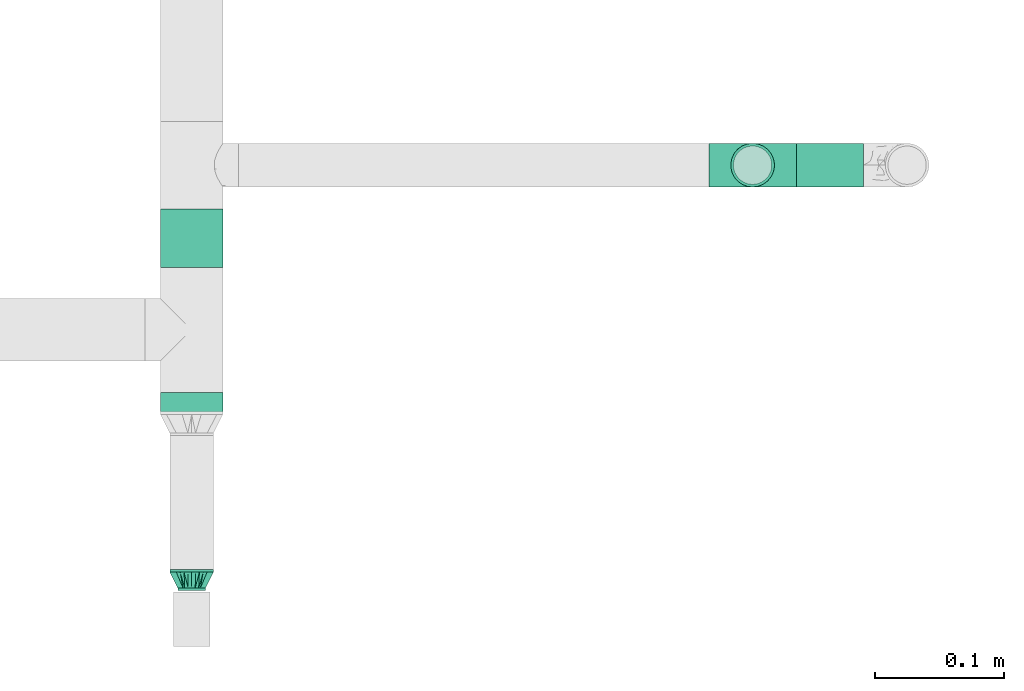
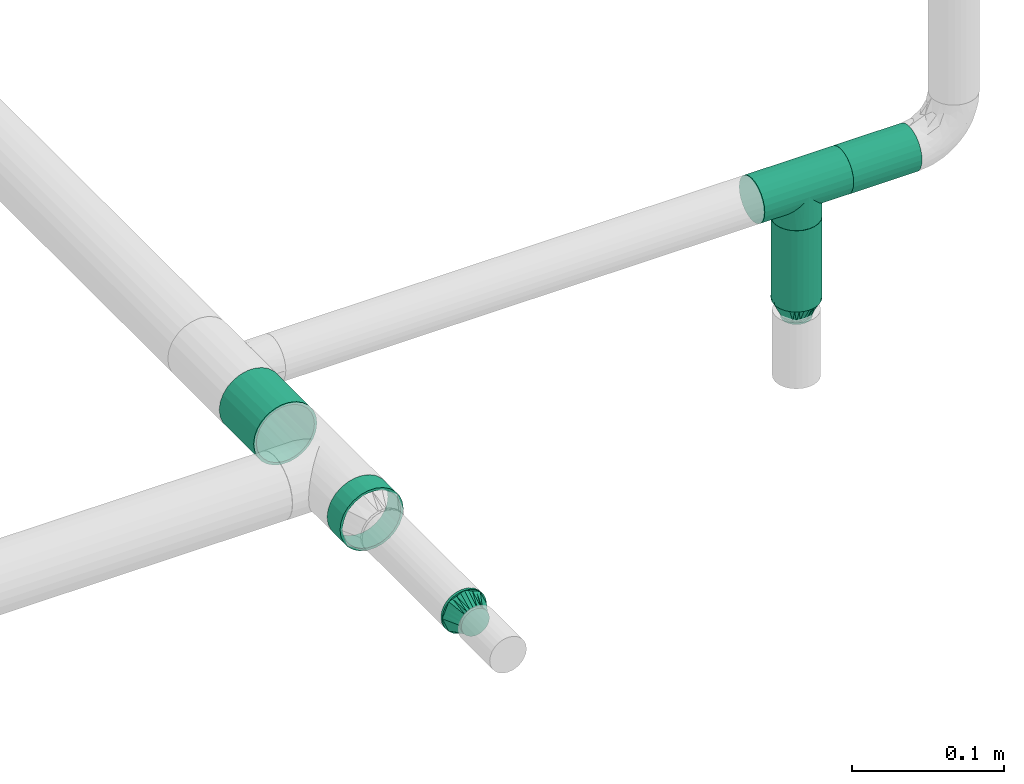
# One storey, part 37 of 51: 4 flow segments, 3 flow fittings.
"""IFC2X3 building model written with IfcOpenShell, lengths in millimetres."""

from ifc_helpers import new_model, entity, si_unit, converted_unit, derived_unit, direction, frame, origin_with_axes, origin_2d_with_axis, place, context, subcontext, project, spatial, hollow_circle, extrude, open_shell, surface_model, source, transform, mapped, type_object, element, save


model = new_model("IFC2X3")

# Units and contexts
model_context = context("Model", 3, precision=0.01, world=frame((0.0, 4.29681676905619e-09, 0.0)), true_north=direction((4.01073788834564e-13, 1.0)))
plan_context = context("Plan", 3, precision=0.01, world=frame((0.0, 4.29681676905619e-09, 0.0)), true_north=direction((4.01073788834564e-13, 1.0)))
body_context = subcontext(model_context, "Body", "Model", "MODEL_VIEW")
ifc_project = project(units=[converted_unit("PLANEANGLEUNIT", "DEGREE", entity("IfcPositiveLengthMeasure", 0.0174532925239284), si_unit("PLANEANGLEUNIT", "RADIAN"), dimensions=[0, 0, 0, 0, 0, 0, 0]), si_unit("AREAUNIT", "SQUARE_METRE"), si_unit("LENGTHUNIT", "METRE", prefix="MILLI"), si_unit("MASSUNIT", "GRAM", prefix="KILO"), si_unit("POWERUNIT", "WATT"), si_unit("PRESSUREUNIT", "PASCAL"), si_unit("FORCEUNIT", "NEWTON", prefix="KILO"), si_unit("ELECTRICVOLTAGEUNIT", "VOLT"), si_unit("ELECTRICCURRENTUNIT", "AMPERE"), si_unit("THERMODYNAMICTEMPERATUREUNIT", "DEGREE_CELSIUS"), si_unit("TIMEUNIT", "SECOND"), si_unit("VOLUMEUNIT", "CUBIC_METRE"), derived_unit("LINEARVELOCITYUNIT", [(si_unit("LENGTHUNIT", "METRE"), 1), (si_unit("TIMEUNIT", "SECOND"), -1)]), derived_unit("VOLUMETRICFLOWRATEUNIT", [(si_unit("VOLUMEUNIT", "CUBIC_METRE"), 1), (si_unit("TIMEUNIT", "SECOND"), -1)]), derived_unit("THERMALTRANSMITTANCEUNIT", [(si_unit("POWERUNIT", "WATT"), 1), (si_unit("THERMODYNAMICTEMPERATUREUNIT", "KELVIN"), -1), (si_unit("AREAUNIT", "SQUARE_METRE"), -1)]), derived_unit("SOUNDPRESSUREUNIT", [(si_unit("PRESSUREUNIT", "PASCAL"), 1)])], contexts=[model_context, plan_context])

# Site, building, storey
site_placement = place(None, frame((0.0, -4.29681676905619e-09, 0.0), z_axis=(0.0, 0.0, 1.0), x_axis=(1.0, 0.0, 0.0)))
site = spatial("IfcSite", under=ifc_project, at=site_placement, Name="ENGM", CompositionType="ELEMENT")
building_placement = place(site_placement, frame((0.0, 4.29681676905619e-09, 0.0), z_axis=(0.0, 0.0, 1.0), x_axis=(1.0, 0.0, 0.0)))
building = spatial("IfcBuilding", under=site, at=building_placement, Name="TH", CompositionType="ELEMENT")
storey_placement = place(building_placement, frame((0.0, 0.0, 210200.0), z_axis=(0.0, 0.0, 1.0), x_axis=(1.0, 0.0, 0.0)))
storey = spatial("IfcBuildingStorey", under=building, at=storey_placement, Name="Nivå F - 0,7 m", CompositionType="ELEMENT", Elevation=210200.0)

# Flow fittings
pipe_fitting_type_1 = type_object("IfcPipeFittingType", Name="magi_pipe_fe_reducer_centric_short_NOR", PredefinedType="TRANSITION")
shared_shape_1 = source(origin_with_axes(), body_context, "Body", "SurfaceModel", [
    surface_model("IfcShellBasedSurfaceModel", [(14.4, 4.37404, -16.32415), (14.4, 8.45, -14.63583), (14.4, 11.9501, -11.9501), (14.4, -8.45, -14.63583), (14.4, 16.32415, -4.37404), (14.4, 16.32415, 4.37404), (14.4, 14.63583, -8.45), (14.4, 0.0, -16.9), (14.4, -4.37404, -16.32415), (14.4, -11.9501, -11.9501), (14.4, -16.32415, -4.37404), (14.4, -14.63583, -8.45), (14.4, -16.32415, 4.37404), (14.4, 16.9, 0.0), (14.4, 14.63583, 8.45), (14.4, 11.9501, 11.9501), (14.4, 4.37404, 16.32415), (14.4, 8.45, 14.63583), (14.4, 0.0, 16.9), (14.4, -14.63583, 8.45), (14.4, -16.9, 0.0), (14.4, -8.45, 14.63583), (14.4, -11.9501, 11.9501), (14.4, -4.37404, 16.32415), (12.4, 4.37404, 16.32415), (12.4, -14.63583, 8.45), (12.4, 0.0, 16.9), (12.4, 16.32415, 4.37404), (12.4, 8.45, 14.63583), (12.4, 11.9501, 11.9501), (12.4, 14.63583, 8.45), (12.4, -8.45, 14.63583), (12.4, -11.9501, 11.9501), (12.4, -4.37404, 16.32415), (12.4, -16.32415, 4.37404), (12.4, -16.32415, -4.37404), (12.4, -16.9, 0.0), (12.4, -8.45, -14.63583), (12.4, 16.32415, -4.37404), (12.4, 11.9501, -11.9501), (12.4, 14.63583, -8.45), (12.4, 8.45, -14.63583), (12.4, 4.37404, -16.32415), (12.4, 0.0, -16.9), (12.4, -11.9501, -11.9501), (12.4, -14.63583, -8.45), (12.4, -4.37404, -16.32415), (12.4, 16.9, 0.0), (-2.0, 10.33541, 2.76936), (-2.0, 0.0, 10.7), (-2.0, 2.76936, 10.33541), (-2.0, 7.56604, 7.56604), (-2.0, 5.35, 9.26647), (-2.0, 9.26647, 5.35), (-2.0, -9.26647, 5.35), (-2.0, -2.76936, 10.33541), (-2.0, -7.56604, 7.56604), (-2.0, -5.35, 9.26647), (-2.0, -10.33541, 2.76936), (-2.0, -10.33541, -2.76936), (-2.0, -10.7, 0.0), (-2.0, 10.33541, -2.76936), (-2.0, 7.56604, -7.56604), (-2.0, 9.26647, -5.35), (-2.0, 5.35, -9.26647), (-2.0, -5.35, -9.26647), (-2.0, 2.76936, -10.33541), (-2.0, -7.56604, -7.56604), (-2.0, -9.26647, -5.35), (-2.0, 0.0, -10.7), (-2.0, -2.76936, -10.33541), (-2.0, 10.7, 0.0), (0.0, 5.35, -9.26647), (0.0, 0.0, -10.7), (0.0, 2.76936, -10.33541), (0.0, 10.33541, -2.76936), (0.0, 7.56604, -7.56604), (0.0, -5.35, -9.26647), (0.0, 9.26647, -5.35), (0.0, -9.26647, 5.35), (0.0, -2.76936, -10.33541), (0.0, -7.56604, -7.56604), (0.0, -10.33541, -2.76936), (0.0, -9.26647, -5.35), (0.0, 10.33541, 2.76936), (0.0, 10.7, 0.0), (0.0, 9.26647, 5.35), (0.0, 7.56604, 7.56604), (0.0, 2.76936, 10.33541), (0.0, 0.0, 10.7), (0.0, 5.35, 9.26647), (0.0, -10.33541, 2.76936), (0.0, -10.7, 0.0), (0.0, -7.56604, 7.56604), (0.0, -2.76936, 10.33541), (0.0, -5.35, 9.26647), (0.0, -9.3625, -2.31662), (12.4, -14.42505, -5.97505), (12.4, -15.66253, -2.98753), (0.0, 6.6875, -6.94985), (12.4, 8.96258, -13.18758), (0.0, -6.6875, -6.94985), (12.4, -8.96258, -13.18758), (0.0, 9.3625, -2.31662), (12.4, 15.66253, -2.98753), (12.4, 14.42505, -5.97505), (12.4, -5.97505, -14.42505), (12.4, 5.97505, -14.42505), (0.0, 2.675, -9.26647), (12.4, 13.18758, -8.96258), (0.0, -2.675, -9.26647), (12.4, -13.18758, -8.96258), (0.0, -8.025, -4.63324), (12.4, 2.98753, -15.66253), (0.0, 0.0, -9.26647), (12.4, -2.98753, -15.66253), (0.0, 8.025, -4.63324), (0.0, 9.3625, 2.31662), (12.4, 14.42505, 5.97505), (12.4, 15.66253, 2.98753), (0.0, -6.6875, 6.94985), (12.4, -8.96258, 13.18758), (0.0, 6.6875, 6.94985), (12.4, 8.96258, 13.18758), (0.0, -9.3625, 2.31662), (12.4, -15.66253, 2.98753), (12.4, -14.42505, 5.97505), (12.4, 5.97505, 14.42505), (12.4, -5.97505, 14.42505), (0.0, -2.675, 9.26647), (12.4, -13.18758, 8.96258), (0.0, 2.675, 9.26647), (12.4, 13.18758, 8.96258), (0.0, 8.025, 4.63324), (12.4, -2.98753, 15.66253), (0.0, 0.0, 9.26647), (12.4, 2.98753, 15.66253), (0.0, -8.025, 4.63324)], [open_shell([[[0, 1, 2]], [[3, 0, 2]], [[2, 4, 5]], [[4, 2, 6]], [[2, 5, 3]], [[7, 3, 8]], [[7, 0, 3]], [[9, 10, 11]], [[10, 9, 3]], [[3, 12, 10]], [[5, 4, 13]], [[5, 14, 15]], [[5, 15, 16]], [[16, 12, 3]], [[16, 15, 17]], [[12, 16, 18]], [[18, 19, 12]], [[20, 10, 12]], [[19, 21, 22]], [[19, 18, 21]], [[21, 18, 23]], [[3, 5, 16]], [[24, 25, 26]], [[27, 24, 28]], [[29, 30, 27]], [[29, 27, 28]], [[25, 24, 27]], [[31, 25, 32]], [[31, 33, 26]], [[26, 25, 31]], [[34, 25, 27]], [[34, 35, 36]], [[34, 27, 37]], [[27, 38, 39]], [[39, 38, 40]], [[39, 41, 42]], [[37, 27, 39]], [[42, 43, 39]], [[35, 44, 45]], [[44, 35, 37]], [[37, 43, 46]], [[35, 34, 37]], [[39, 43, 37]], [[38, 27, 47]], [[35, 10, 36]], [[45, 11, 35]], [[3, 44, 37]], [[45, 44, 9]], [[8, 37, 46]], [[35, 11, 10]], [[10, 20, 36]], [[8, 3, 37]], [[9, 44, 3]], [[9, 11, 45]], [[7, 8, 46]], [[46, 43, 7]], [[42, 0, 43]], [[41, 1, 42]], [[6, 39, 40]], [[41, 39, 2]], [[4, 40, 38]], [[41, 2, 1]], [[1, 0, 42]], [[13, 4, 38]], [[6, 40, 4]], [[6, 2, 39]], [[47, 13, 38]], [[43, 0, 7]], [[27, 5, 47]], [[30, 14, 27]], [[17, 29, 28]], [[30, 29, 15]], [[16, 28, 24]], [[27, 14, 5]], [[5, 13, 47]], [[16, 17, 28]], [[15, 29, 17]], [[15, 14, 30]], [[18, 16, 24]], [[24, 26, 18]], [[33, 23, 26]], [[31, 21, 33]], [[19, 32, 25]], [[31, 32, 22]], [[12, 25, 34]], [[31, 22, 21]], [[21, 23, 33]], [[20, 12, 34]], [[19, 25, 12]], [[19, 22, 32]], [[36, 20, 34]], [[26, 23, 18]], [[48, 49, 50]], [[51, 50, 52]], [[51, 53, 48]], [[51, 48, 50]], [[49, 48, 54]], [[55, 56, 57]], [[56, 55, 54]], [[58, 59, 60]], [[54, 55, 49]], [[58, 54, 59]], [[54, 48, 61]], [[59, 54, 61]], [[62, 61, 63]], [[59, 62, 64]], [[61, 62, 59]], [[65, 64, 66]], [[59, 67, 68]], [[67, 59, 65]], [[65, 69, 70]], [[65, 59, 64]], [[66, 69, 65]], [[61, 48, 71]], [[72, 73, 74]], [[75, 72, 76]], [[77, 72, 75]], [[75, 76, 78]], [[79, 77, 75]], [[73, 77, 80]], [[73, 72, 77]], [[81, 82, 83]], [[82, 81, 77]], [[77, 79, 82]], [[84, 75, 85]], [[84, 86, 87]], [[75, 87, 79]], [[88, 89, 87]], [[88, 87, 90]], [[79, 87, 89]], [[82, 91, 92]], [[79, 91, 82]], [[93, 94, 95]], [[94, 93, 79]], [[89, 94, 79]], [[75, 84, 87]], [[59, 82, 60]], [[68, 83, 59]], [[77, 67, 65]], [[68, 67, 81]], [[80, 65, 70]], [[59, 83, 82]], [[82, 92, 60]], [[80, 77, 65]], [[81, 67, 77]], [[81, 83, 68]], [[73, 80, 70]], [[70, 69, 73]], [[66, 74, 69]], [[64, 72, 66]], [[78, 62, 63]], [[64, 62, 76]], [[75, 63, 61]], [[64, 76, 72]], [[72, 74, 66]], [[85, 75, 61]], [[78, 63, 75]], [[78, 76, 62]], [[71, 85, 61]], [[69, 74, 73]], [[48, 84, 71]], [[53, 86, 48]], [[90, 51, 52]], [[53, 51, 87]], [[88, 52, 50]], [[48, 86, 84]], [[84, 85, 71]], [[88, 90, 52]], [[87, 51, 90]], [[87, 86, 53]], [[89, 88, 50]], [[50, 49, 89]], [[55, 94, 49]], [[57, 95, 55]], [[79, 56, 54]], [[57, 56, 93]], [[91, 54, 58]], [[57, 93, 95]], [[95, 94, 55]], [[92, 91, 58]], [[79, 54, 91]], [[79, 93, 56]], [[60, 92, 58]], [[49, 94, 89]], [[29, 26, 39]], [[39, 47, 29]], [[36, 26, 32]], [[36, 44, 43]], [[43, 39, 36]], [[36, 39, 26]], [[92, 95, 77]], [[85, 95, 90]], [[85, 72, 77]], [[85, 77, 95]], [[96, 97, 98]], [[92, 96, 98]], [[99, 100, 72]], [[98, 36, 92]], [[44, 101, 102]], [[101, 77, 102]], [[103, 104, 105]], [[85, 47, 104]], [[77, 106, 102]], [[107, 108, 72]], [[109, 39, 99]], [[106, 77, 110]], [[101, 111, 112]], [[113, 114, 108]], [[100, 99, 39]], [[110, 115, 106]], [[99, 116, 109]], [[100, 107, 72]], [[96, 112, 97]], [[105, 116, 103]], [[85, 104, 103]], [[108, 107, 113]], [[113, 43, 114]], [[116, 105, 109]], [[114, 115, 110]], [[43, 115, 114]], [[111, 101, 44]], [[111, 97, 112]], [[117, 118, 119]], [[85, 117, 119]], [[120, 121, 95]], [[119, 47, 85]], [[29, 122, 123]], [[122, 90, 123]], [[124, 125, 126]], [[92, 36, 125]], [[90, 127, 123]], [[128, 129, 95]], [[130, 32, 120]], [[127, 90, 131]], [[122, 132, 133]], [[134, 135, 129]], [[121, 120, 32]], [[131, 136, 127]], [[120, 137, 130]], [[121, 128, 95]], [[117, 133, 118]], [[126, 137, 124]], [[92, 125, 124]], [[129, 128, 134]], [[134, 26, 135]], [[137, 126, 130]], [[135, 136, 131]], [[26, 136, 135]], [[132, 122, 29]], [[132, 118, 133]]])]),
])
flow_fitting_1_placement = place(storey_placement, frame((908949.82472, 480823.05237, 2700.0), z_axis=(0.0, 0.0, 1.0), x_axis=(0.0, 1.0, 0.0)))
element("IfcFlowFitting", 1, at=flow_fitting_1_placement, inside=storey, type_object=pipe_fitting_type_1, Name="magi_pipe_fe_reducer_centric_short_NOR", context=body_context, shape_type="MappedRepresentation", body=[
    mapped(shared_shape_1, transform((0.0, 0.0, 0.0), scale=1.0)),
])
shared_shape_2 = source(origin_with_axes(), body_context, "Body", "SurfaceModel", [
    surface_model("IfcShellBasedSurfaceModel", [(-2.0, -7.56604, -7.56604), (-2.0, -10.33541, -2.76936), (-2.0, -5.35, -9.26647), (12.4, 11.9501, 11.9501), (12.4, 0.0, 16.9), (12.4, 11.9501, -11.9501), (12.4, 16.9, 0.0), (0.0, -10.7, 0.0), (0.0, -5.35, 9.26647), (0.0, -5.35, -9.26647), (12.4, -15.66253, -2.98753), (12.4, -16.9, 0.0), (12.4, -11.9501, -11.9501), (0.0, -6.6875, -6.94985), (12.4, -8.96258, -13.18758), (0.0, 10.7, 0.0), (12.4, 15.66253, -2.98753), (12.4, -5.97505, -14.42505), (12.4, 8.96258, -13.18758), (0.0, 6.6875, -6.94985), (12.4, 5.97505, -14.42505), (0.0, 5.35, -9.26647), (0.0, -9.3625, -2.31662), (0.0, -8.025, -4.63324), (12.4, -14.42505, -5.97505), (12.4, 14.42505, -5.97505), (0.0, 8.025, -4.63324), (0.0, 9.3625, -2.31662), (12.4, 13.18758, -8.96258), (12.4, -13.18758, -8.96258), (12.4, 15.66253, 2.98753), (0.0, 6.6875, 6.94985), (12.4, 8.96258, 13.18758), (12.4, -15.66253, 2.98753), (0.0, 5.35, 9.26647), (12.4, 5.97505, 14.42505), (12.4, -8.96258, 13.18758), (0.0, -6.6875, 6.94985), (12.4, -11.9501, 11.9501), (12.4, -5.97505, 14.42505), (0.0, 9.3625, 2.31662), (0.0, 8.025, 4.63324), (12.4, 14.42505, 5.97505), (12.4, -14.42505, 5.97505), (0.0, -8.025, 4.63324), (0.0, -9.3625, 2.31662), (12.4, -13.18758, 8.96258), (12.4, 13.18758, 8.96258), (14.4, -11.9501, -11.9501), (14.4, -8.45, -14.63583), (14.4, -4.37404, -16.32415), (14.4, 8.45, -14.63583), (14.4, 16.9, 0.0), (14.4, -14.63583, -8.45), (14.4, -16.32415, -4.37404), (14.4, -4.37404, 16.32415), (14.4, 4.37404, -16.32415), (14.4, 0.0, -16.9), (14.4, 14.63583, -8.45), (14.4, 16.32415, -4.37404), (14.4, 11.9501, -11.9501), (14.4, -16.32415, 4.37404), (14.4, -16.9, 0.0), (14.4, -11.9501, 11.9501), (14.4, -14.63583, 8.45), (14.4, -8.45, 14.63583), (14.4, 0.0, 16.9), (14.4, 16.32415, 4.37404), (14.4, 14.63583, 8.45), (14.4, 11.9501, 11.9501), (14.4, 8.45, 14.63583), (14.4, 4.37404, 16.32415), (12.4, 14.63583, 8.45), (12.4, -4.37404, 16.32415), (12.4, -8.45, 14.63583), (12.4, -16.32415, 4.37404), (12.4, -14.63583, 8.45), (12.4, 8.45, 14.63583), (12.4, 4.37404, 16.32415), (12.4, 16.32415, 4.37404), (12.4, 16.32415, -4.37404), (12.4, 8.45, -14.63583), (12.4, -16.32415, -4.37404), (12.4, -14.63583, -8.45), (12.4, -4.37404, -16.32415), (12.4, -8.45, -14.63583), (12.4, 14.63583, -8.45), (12.4, 4.37404, -16.32415), (12.4, 0.0, -16.9), (-2.0, -2.76936, 10.33541), (-2.0, 0.0, 10.7), (-2.0, -10.33541, 2.76936), (-2.0, -5.35, 9.26647), (-2.0, -7.56604, 7.56604), (-2.0, -9.26647, 5.35), (-2.0, 9.26647, 5.35), (-2.0, 5.35, 9.26647), (-2.0, 7.56604, 7.56604), (-2.0, 2.76936, 10.33541), (-2.0, 10.7, 0.0), (-2.0, 10.33541, -2.76936), (-2.0, 10.33541, 2.76936), (-2.0, -9.26647, -5.35), (-2.0, 5.35, -9.26647), (-2.0, -2.76936, -10.33541), (-2.0, 9.26647, -5.35), (-2.0, 7.56604, -7.56604), (-2.0, 2.76936, -10.33541), (-2.0, 0.0, -10.7), (-2.0, -10.7, 0.0), (0.0, -2.76936, -10.33541), (0.0, 0.0, -10.7), (0.0, -7.56604, -7.56604), (0.0, -10.33541, -2.76936), (0.0, 10.33541, -2.76936), (0.0, -9.26647, -5.35), (0.0, 9.26647, 5.35), (0.0, 2.76936, -10.33541), (0.0, 9.26647, -5.35), (0.0, 7.56604, -7.56604), (0.0, -10.33541, 2.76936), (0.0, -7.56604, 7.56604), (0.0, -9.26647, 5.35), (0.0, 0.0, 10.7), (0.0, -2.76936, 10.33541), (0.0, 10.33541, 2.76936), (0.0, 2.76936, 10.33541), (0.0, 7.56604, 7.56604), (12.4, -2.98753, -15.66253), (0.0, -2.675, -9.26647), (0.0, 2.675, -9.26647), (12.4, 2.98753, -15.66253), (0.0, 0.0, -9.26647), (12.4, 2.98753, 15.66253), (0.0, 2.675, 9.26647), (0.0, -2.675, 9.26647), (12.4, -2.98753, 15.66253), (0.0, 0.0, 9.26647)], [open_shell([[[0, 1, 2]], [[3, 4, 5]], [[5, 6, 3]], [[7, 8, 9]], [[10, 11, 7]], [[12, 13, 14]], [[15, 6, 16]], [[9, 17, 14]], [[18, 19, 5]], [[18, 20, 21]], [[22, 23, 24]], [[25, 26, 27]], [[26, 25, 28]], [[29, 24, 23]], [[30, 6, 15]], [[3, 31, 32]], [[7, 11, 33]], [[34, 35, 32]], [[36, 37, 38]], [[36, 39, 8]], [[40, 41, 42]], [[43, 44, 45]], [[44, 43, 46]], [[47, 42, 41]], [[48, 49, 50]], [[48, 50, 51]], [[51, 52, 48]], [[53, 48, 54]], [[48, 55, 54]], [[56, 51, 57]], [[51, 50, 57]], [[58, 59, 60]], [[51, 60, 59]], [[59, 52, 51]], [[61, 62, 54]], [[63, 64, 61]], [[55, 63, 61]], [[48, 52, 55]], [[65, 63, 55]], [[66, 55, 52]], [[67, 68, 66]], [[66, 52, 67]], [[69, 70, 68]], [[70, 66, 68]], [[71, 66, 70]], [[61, 54, 55]], [[4, 72, 73]], [[74, 73, 75]], [[75, 76, 38]], [[74, 75, 38]], [[75, 73, 72]], [[3, 72, 77]], [[4, 78, 77]], [[77, 72, 4]], [[75, 72, 79]], [[6, 80, 79]], [[81, 75, 79]], [[12, 82, 75]], [[83, 82, 12]], [[84, 85, 12]], [[12, 75, 81]], [[12, 81, 84]], [[86, 5, 80]], [[81, 80, 5]], [[87, 88, 81]], [[81, 79, 80]], [[81, 88, 84]], [[11, 75, 82]], [[6, 59, 80]], [[80, 58, 86]], [[81, 5, 51]], [[60, 5, 86]], [[87, 81, 56]], [[59, 58, 80]], [[6, 52, 59]], [[81, 51, 56]], [[51, 5, 60]], [[86, 58, 60]], [[87, 56, 57]], [[57, 88, 87]], [[88, 50, 84]], [[84, 49, 85]], [[83, 12, 53]], [[48, 12, 85]], [[82, 83, 54]], [[49, 48, 85]], [[84, 50, 49]], [[82, 54, 62]], [[54, 83, 53]], [[12, 48, 53]], [[82, 62, 11]], [[57, 50, 88]], [[11, 61, 75]], [[75, 64, 76]], [[74, 38, 65]], [[63, 38, 76]], [[73, 74, 55]], [[61, 64, 75]], [[11, 62, 61]], [[74, 65, 55]], [[65, 38, 63]], [[76, 64, 63]], [[73, 55, 66]], [[66, 4, 73]], [[4, 71, 78]], [[78, 70, 77]], [[72, 3, 68]], [[69, 3, 77]], [[79, 72, 67]], [[70, 69, 77]], [[78, 71, 70]], [[79, 67, 52]], [[67, 72, 68]], [[3, 69, 68]], [[79, 52, 6]], [[66, 71, 4]], [[89, 90, 91]], [[92, 89, 93]], [[91, 94, 93]], [[89, 91, 93]], [[95, 91, 90]], [[96, 97, 98]], [[95, 98, 97]], [[99, 100, 101]], [[90, 98, 95]], [[100, 95, 101]], [[1, 91, 95]], [[1, 95, 100]], [[102, 1, 0]], [[100, 2, 1]], [[2, 103, 104]], [[105, 106, 100]], [[103, 100, 106]], [[107, 108, 103]], [[2, 100, 103]], [[103, 108, 104]], [[109, 91, 1]], [[110, 111, 9]], [[112, 9, 113]], [[113, 9, 114]], [[115, 112, 113]], [[113, 114, 116]], [[117, 21, 111]], [[21, 9, 111]], [[118, 114, 119]], [[21, 119, 114]], [[21, 114, 9]], [[120, 7, 113]], [[121, 122, 120]], [[116, 121, 113]], [[121, 123, 124]], [[8, 121, 124]], [[123, 121, 116]], [[15, 125, 114]], [[114, 125, 116]], [[34, 126, 127]], [[116, 127, 126]], [[116, 126, 123]], [[121, 120, 113]], [[99, 114, 100]], [[100, 118, 105]], [[103, 106, 21]], [[119, 106, 105]], [[107, 103, 117]], [[114, 118, 100]], [[99, 15, 114]], [[103, 21, 117]], [[21, 106, 119]], [[105, 118, 119]], [[107, 117, 111]], [[111, 108, 107]], [[108, 110, 104]], [[104, 9, 2]], [[102, 0, 115]], [[112, 0, 2]], [[1, 102, 113]], [[9, 112, 2]], [[104, 110, 9]], [[1, 113, 7]], [[113, 102, 115]], [[0, 112, 115]], [[1, 7, 109]], [[111, 110, 108]], [[109, 120, 91]], [[91, 122, 94]], [[92, 93, 8]], [[121, 93, 94]], [[89, 92, 124]], [[120, 122, 91]], [[109, 7, 120]], [[92, 8, 124]], [[8, 93, 121]], [[94, 122, 121]], [[89, 124, 123]], [[123, 90, 89]], [[90, 126, 98]], [[98, 34, 96]], [[95, 97, 116]], [[127, 97, 96]], [[101, 95, 125]], [[34, 127, 96]], [[98, 126, 34]], [[101, 125, 15]], [[125, 95, 116]], [[97, 127, 116]], [[101, 15, 99]], [[123, 126, 90]], [[4, 38, 11]], [[11, 88, 5]], [[88, 11, 12]], [[4, 11, 5]], [[8, 34, 15]], [[21, 9, 15]], [[8, 15, 9]], [[128, 17, 129]], [[16, 25, 27]], [[130, 21, 20]], [[18, 21, 19]], [[24, 10, 22]], [[26, 28, 19]], [[20, 131, 130]], [[9, 129, 17]], [[13, 12, 29]], [[9, 14, 13]], [[129, 132, 128]], [[130, 131, 132]], [[29, 23, 13]], [[132, 131, 88]], [[16, 27, 15]], [[22, 10, 7]], [[5, 19, 28]], [[132, 88, 128]], [[133, 35, 134]], [[33, 43, 45]], [[135, 8, 39]], [[36, 8, 37]], [[42, 30, 40]], [[44, 46, 37]], [[39, 136, 135]], [[34, 134, 35]], [[31, 3, 47]], [[34, 32, 31]], [[134, 137, 133]], [[135, 136, 137]], [[47, 41, 31]], [[137, 136, 4]], [[33, 45, 7]], [[40, 30, 15]], [[38, 37, 46]], [[137, 4, 133]]])]),
])
flow_fitting_2_placement = place(storey_placement, frame((909384.08153, 481150.50372, 2596.95199999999), z_axis=(0.0, -1.0, 0.0), x_axis=(0.0, 0.0, 1.0)))
element("IfcFlowFitting", 2, at=flow_fitting_2_placement, inside=storey, type_object=pipe_fitting_type_1, Name="magi_pipe_fe_reducer_centric_short_NOR", context=body_context, shape_type="MappedRepresentation", body=[
    mapped(shared_shape_2, transform((0.0, 0.0, 0.0), scale=1.0)),
])
pipe_fitting_type_2 = type_object("IfcPipeFittingType", Name="magi_pipe_fe_tee_centric_90_NOR", PredefinedType="JUNCTION")
shared_shape_3 = source(origin_with_axes(), body_context, "Body", "SurfaceModel", [
    surface_model("IfcShellBasedSurfaceModel", [(-33.8, 4.37404, -16.32415), (-33.8, 0.0, -16.9), (-33.8, 16.32415, -4.37404), (-33.8, 8.45, -14.63583), (-33.8, 11.9501, -11.9501), (-33.8, 14.63583, -8.45), (-33.8, -16.9, 0.0), (-33.8, -11.9501, -11.9501), (-33.8, -14.63583, -8.45), (-33.8, -8.45, -14.63583), (-33.8, -4.37404, -16.32415), (-33.8, -16.32415, -4.37404), (-33.8, 14.63583, 8.45), (-33.8, 16.32415, 4.37404), (-33.8, -8.45, 14.63583), (-33.8, 8.45, 14.63583), (-33.8, 11.9501, 11.9501), (-33.8, 4.37404, 16.32415), (-33.8, 0.0, 16.9), (-33.8, -11.9501, 11.9501), (-33.8, -14.63583, 8.45), (-33.8, -16.32415, 4.37404), (-33.8, -4.37404, 16.32415), (-33.8, 16.9, 0.0), (33.8, 4.37404, -16.32415), (33.8, -16.9, 0.0), (33.8, 0.0, -16.9), (33.8, 14.63583, -8.45), (33.8, 8.45, -14.63583), (33.8, 16.32415, -4.37404), (33.8, 11.9501, -11.9501), (33.8, -16.32415, 4.37404), (33.8, -8.45, -14.63583), (33.8, -4.37404, -16.32415), (33.8, -11.9501, -11.9501), (33.8, -14.63583, -8.45), (33.8, -16.32415, -4.37404), (33.8, 16.32415, 4.37404), (33.8, 8.45, 14.63583), (33.8, 14.63583, 8.45), (33.8, 11.9501, 11.9501), (33.8, -8.45, 14.63583), (33.8, 4.37404, 16.32415), (33.8, -14.63583, 8.45), (33.8, -11.9501, 11.9501), (33.8, 0.0, 16.9), (33.8, -4.37404, 16.32415), (33.8, 16.9, 0.0), (16.28698, -16.28698, 4.51047), (16.9, -16.9, 0.0), (14.62704, -14.62704, 8.4652), (9.47213, -9.47213, 13.99602), (12.26343, -12.26343, 11.62834), (-16.9, -16.9, 0.0), (-16.28698, -16.28698, 4.51047), (-14.62704, -14.62704, 8.4652), (-12.26343, -12.26343, 11.62834), (-9.47213, -9.47213, 13.99602), (-6.42894, -6.42894, 15.62942), (6.42894, -6.42894, 15.62942), (3.24522, -3.24522, 16.58549), (0.0, 0.0, 16.9), (-3.24522, -3.24522, 16.58549), (3.24522, -3.24522, -16.58549), (0.0, 0.0, -16.9), (-3.24522, -3.24522, -16.58549), (-6.42894, -6.42894, -15.62942), (6.42894, -6.42894, -15.62942), (9.47213, -9.47213, -13.99602), (12.26343, -12.26343, -11.62834), (14.62704, -14.62704, -8.4652), (16.28698, -16.28698, -4.51047), (-9.47213, -9.47213, -13.99602), (-12.26343, -12.26343, -11.62834), (-16.28698, -16.28698, -4.51047), (-14.62704, -14.62704, -8.4652), (4.37404, -25.35, -16.32415), (-16.9, -25.35, 0.0), (0.0, -25.35, -16.9), (14.63583, -25.35, -8.45), (8.45, -25.35, -14.63583), (16.32415, -25.35, -4.37404), (11.9501, -25.35, -11.9501), (-11.9501, -25.35, -11.9501), (-8.45, -25.35, -14.63583), (-4.37404, -25.35, -16.32415), (-14.63583, -25.35, -8.45), (-16.32415, -25.35, -4.37404), (16.9, -25.35, 0.0), (8.45, -25.35, 14.63583), (16.32415, -25.35, 4.37404), (14.63583, -25.35, 8.45), (-8.45, -25.35, 14.63583), (11.9501, -25.35, 11.9501), (4.37404, -25.35, 16.32415), (-16.32415, -25.35, 4.37404), (-11.9501, -25.35, 11.9501), (-14.63583, -25.35, 8.45), (0.0, -25.35, 16.9), (-4.37404, -25.35, 16.32415)], [open_shell([[[0, 1, 2]], [[3, 0, 4]], [[0, 2, 5]], [[4, 0, 5]], [[6, 2, 1]], [[7, 8, 9]], [[1, 10, 9]], [[11, 6, 8]], [[1, 9, 8]], [[1, 8, 6]], [[6, 12, 2]], [[12, 13, 2]], [[14, 12, 6]], [[12, 14, 15]], [[16, 12, 15]], [[17, 15, 18]], [[19, 14, 20]], [[21, 20, 14]], [[22, 18, 14]], [[14, 6, 21]], [[14, 18, 15]], [[23, 2, 13]], [[24, 25, 26]], [[27, 24, 28]], [[27, 29, 24]], [[27, 28, 30]], [[31, 25, 24]], [[26, 32, 33]], [[26, 34, 32]], [[35, 25, 36]], [[35, 34, 26]], [[25, 35, 26]], [[24, 29, 31]], [[29, 37, 38]], [[38, 37, 39]], [[38, 31, 29]], [[38, 39, 40]], [[41, 38, 42]], [[43, 41, 44]], [[41, 43, 31]], [[41, 45, 46]], [[41, 31, 38]], [[42, 45, 41]], [[29, 47, 37]], [[31, 43, 48]], [[25, 31, 49]], [[49, 31, 48]], [[43, 50, 48]], [[44, 41, 51]], [[50, 43, 52]], [[51, 52, 44]], [[52, 43, 44]], [[53, 54, 21]], [[53, 21, 6]], [[21, 54, 20]], [[54, 55, 20]], [[56, 57, 19]], [[19, 20, 56]], [[19, 57, 14]], [[56, 20, 55]], [[14, 57, 58]], [[51, 41, 59]], [[60, 45, 61]], [[59, 46, 60]], [[46, 59, 41]], [[60, 46, 45]], [[61, 45, 42]], [[39, 37, 13]], [[16, 38, 40]], [[12, 40, 39]], [[42, 38, 15]], [[23, 37, 47]], [[62, 61, 18]], [[62, 22, 58]], [[22, 62, 18]], [[58, 22, 14]], [[61, 17, 18]], [[42, 17, 61]], [[15, 17, 42]], [[15, 38, 16]], [[12, 16, 40]], [[13, 12, 39]], [[37, 23, 13]], [[5, 27, 30]], [[23, 47, 29]], [[30, 28, 3]], [[27, 2, 29]], [[26, 33, 63]], [[26, 64, 24]], [[64, 26, 63]], [[28, 24, 0]], [[64, 0, 24]], [[4, 30, 3]], [[2, 27, 5]], [[5, 30, 4]], [[2, 23, 29]], [[65, 66, 10]], [[1, 0, 64]], [[1, 65, 10]], [[66, 9, 10]], [[0, 3, 28]], [[1, 64, 65]], [[63, 33, 67]], [[32, 34, 68]], [[69, 68, 34]], [[35, 70, 69]], [[69, 34, 35]], [[32, 68, 67]], [[36, 25, 49]], [[36, 71, 35]], [[71, 36, 49]], [[35, 71, 70]], [[72, 9, 66]], [[72, 7, 9]], [[7, 72, 73]], [[7, 73, 8]], [[74, 53, 11]], [[75, 74, 8]], [[74, 11, 8]], [[11, 53, 6]], [[75, 8, 73]], [[32, 67, 33]], [[76, 77, 78]], [[79, 76, 80]], [[79, 81, 76]], [[79, 80, 82]], [[77, 76, 81]], [[78, 83, 84]], [[84, 85, 78]], [[86, 77, 87]], [[83, 78, 86]], [[77, 86, 78]], [[81, 88, 77]], [[89, 88, 90]], [[89, 90, 91]], [[92, 77, 89]], [[89, 91, 93]], [[92, 89, 94]], [[95, 96, 97]], [[96, 95, 92]], [[92, 98, 99]], [[95, 77, 92]], [[94, 98, 92]], [[89, 77, 88]], [[77, 95, 53]], [[54, 53, 95]], [[97, 96, 56]], [[96, 92, 57]], [[95, 97, 54]], [[58, 92, 99]], [[55, 54, 97]], [[56, 55, 97]], [[58, 57, 92]], [[98, 61, 62]], [[58, 99, 62]], [[56, 96, 57]], [[62, 99, 98]], [[94, 60, 98]], [[89, 59, 94]], [[91, 90, 48]], [[52, 93, 91]], [[93, 51, 89]], [[49, 90, 88]], [[59, 60, 94]], [[51, 59, 89]], [[49, 48, 90]], [[50, 52, 91]], [[48, 50, 91]], [[51, 93, 52]], [[98, 60, 61]], [[88, 81, 49]], [[71, 49, 81]], [[79, 82, 69]], [[82, 80, 68]], [[81, 79, 71]], [[67, 80, 76]], [[70, 71, 79]], [[69, 70, 79]], [[67, 68, 80]], [[78, 64, 63]], [[67, 76, 63]], [[69, 82, 68]], [[63, 76, 78]], [[85, 65, 78]], [[84, 66, 85]], [[86, 87, 74]], [[86, 73, 83]], [[72, 84, 83]], [[53, 87, 77]], [[66, 65, 85]], [[72, 66, 84]], [[53, 74, 87]], [[75, 73, 86]], [[74, 75, 86]], [[72, 83, 73]], [[78, 65, 64]]])]),
])
flow_fitting_3_placement = place(storey_placement, frame((909384.08153, 481150.50372, 2700.0), z_axis=(0.0, 1.0, 0.0), x_axis=(-1.0, 0.0, 0.0)))
element("IfcFlowFitting", 3, at=flow_fitting_3_placement, inside=storey, type_object=pipe_fitting_type_2, Name="magi_pipe_fe_tee_centric_90_NOR", context=body_context, shape_type="MappedRepresentation", body=[
    mapped(shared_shape_3, transform((0.0, 0.0, 0.0), scale=1.0)),
])

# Flow segments
pipe_segment_type = type_object("IfcPipeSegmentType", Name="Stålrør normaltykke", PredefinedType="RIGIDSEGMENT")
shared_shape_4 = source(origin_with_axes(), body_context, "Body", "SweptSolid", [
    extrude(hollow_circle(Radius=24.1, WallThickness=2.0, at=origin_2d_with_axis()), frame((0.0, 0.0, 0.0), z_axis=(1.0, 0.0, 0.0), x_axis=(0.0, 1.0, 0.0)), (0.0, 0.0, 1.0), 45.3),
])
flow_segment_1_placement = place(storey_placement, frame((908949.82472, 481116.70372, 2700.0), z_axis=(0.0, 0.0, 1.0), x_axis=(0.0, -1.0, 0.0)))
element("IfcFlowSegment", 4, at=flow_segment_1_placement, inside=storey, type_object=pipe_segment_type, Name="Stålrør normaltykke", context=body_context, shape_type="MappedRepresentation", body=[
    mapped(shared_shape_4, transform((0.0, 0.0, 0.0), scale=1.0)),
])
shared_shape_5 = source(origin_with_axes(), body_context, "Body", "SweptSolid", [
    extrude(hollow_circle(Radius=24.1, WallThickness=2.0, at=origin_2d_with_axis()), frame((0.0, 0.0, 0.0), z_axis=(1.0, 0.0, 0.0), x_axis=(0.0, 1.0, 0.0)), (0.0, 0.0, 1.0), 17.0),
])
flow_segment_2_placement = place(storey_placement, frame((908949.82472, 480957.65237, 2700.0), z_axis=(0.0, 0.0, 1.0), x_axis=(0.0, 1.0, 0.0)))
element("IfcFlowSegment", 5, at=flow_segment_2_placement, inside=storey, type_object=pipe_segment_type, Name="Stålrør normaltykke", context=body_context, shape_type="MappedRepresentation", body=[
    mapped(shared_shape_5, transform((0.0, 0.0, 0.0), scale=1.0)),
])
shared_shape_6 = source(origin_with_axes(), body_context, "Body", "SweptSolid", [
    extrude(hollow_circle(Radius=16.9, WallThickness=2.0, at=origin_2d_with_axis()), frame((0.0, 0.0, 0.0), z_axis=(1.0, 0.0, 0.0), x_axis=(0.0, 1.0, 0.0)), (0.0, 0.0, 1.0), 65.3),
])
flow_segment_3_placement = place(storey_placement, frame((909384.08153, 481150.50372, 2609.35200000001), z_axis=(-1.0, 0.0, 0.0), x_axis=(0.0, 0.0, 1.0)))
element("IfcFlowSegment", 6, at=flow_segment_3_placement, inside=storey, type_object=pipe_segment_type, Name="Stålrør normaltykke", context=body_context, shape_type="MappedRepresentation", body=[
    mapped(shared_shape_6, transform((0.0, 0.0, 0.0), scale=1.0)),
])
shared_shape_7 = source(origin_with_axes(), body_context, "Body", "SweptSolid", [
    extrude(hollow_circle(Radius=16.9, WallThickness=2.0, at=origin_2d_with_axis()), frame((0.0, 0.0, 0.0), z_axis=(1.0, 0.0, 0.0), x_axis=(0.0, 1.0, 0.0)), (0.0, 0.0, 1.0), 52.0),
])
flow_segment_4_placement = place(storey_placement, frame((909417.88153, 481150.50372, 2700.0), z_axis=(0.0, 0.0, 1.0), x_axis=(1.0, 0.0, 0.0)))
element("IfcFlowSegment", 7, at=flow_segment_4_placement, inside=storey, type_object=pipe_segment_type, Name="Stålrør normaltykke", context=body_context, shape_type="MappedRepresentation", body=[
    mapped(shared_shape_7, transform((0.0, 0.0, 0.0), scale=1.0)),
])

save(model, "model.ifc")
